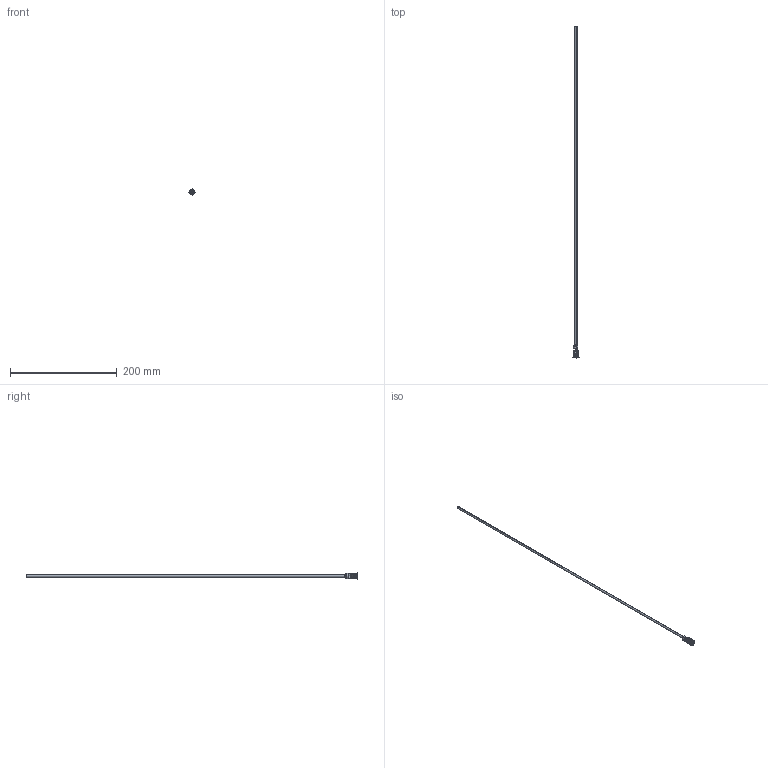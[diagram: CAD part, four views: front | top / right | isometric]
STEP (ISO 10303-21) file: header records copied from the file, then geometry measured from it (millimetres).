
FILE_DESCRIPTION (( 'STEP AP203' ), '1' );
FILE_NAME ('RF-10Fx600-4.STEP', '2015-11-20T08:27:19', ( 'Balzi' ), ( '' ), 'SwSTEP 2.0', 'SolidWorks 2015', '' );
FILE_SCHEMA (( 'CONFIG_CONTROL_DESIGN' ));
Length unit declared in the file: millimetre
Products named in the file (1): RF-10Fx600-4
Bounding box: 11.3 x 622.5 x 11.3 mm (x, y, z)
Volume: 2982.2 mm3; surface area: 15433.4 mm2
Topology: 1 solids, 1 shells, 71 faces, 164 edges, 102 vertices
Faces by surface type: plane 26, cylinder 25, cone 12, torus 8
Entity records: 2114 total; most frequent: DIRECTION 385, CARTESIAN_POINT 357, ORIENTED_EDGE 328, EDGE_CURVE 164, AXIS2_PLACEMENT_3D 154, VERTEX_POINT 102, CIRCLE 82, EDGE_LOOP 80
